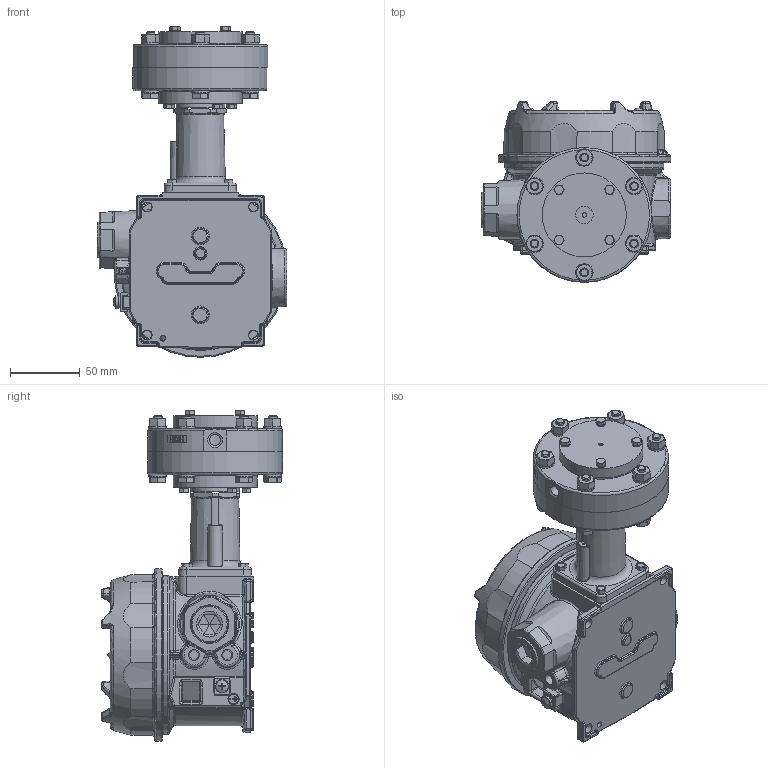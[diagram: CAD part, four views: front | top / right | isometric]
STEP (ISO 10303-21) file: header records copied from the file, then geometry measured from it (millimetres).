
FILE_DESCRIPTION (( 'STEP AP214' ), '1' );
FILE_NAME ('J120K-544_548.STEP', '2025-03-20T11:51:36', ( '' ), ( '' ), 'SwSTEP 2.0', 'SolidWorks 2023', '' );
FILE_SCHEMA (( 'AUTOMOTIVE_DESIGN' ));
Products named in the file (1): J120K-544_548
Bounding box: 135.89 x 129.97 x 237.49 mm (x, y, z)
Surface area: 136170.2 mm2 (no closed solid volume)
Topology: 0 solids, 82 shells, 1436 faces, 3932 edges, 2449 vertices
Faces by surface type: plane 415, cylinder 327, bspline 249, cone 206, torus 197, sphere 42
Full cylindrical faces by diameter (mm): 1.575 x1, 3.175 x1, 3.22 x1, 5.556 x4, 6.325 x6, 7.366 x1, 7.824 x2, 7.874 x1, 9.5 x1, 10.668 x5, 12.7 x7, 23.812 x1, 34.925 x1, 60.325 x4, 87.312 x1, 114.046 x1, 123.952 x1
Entity records: 57691 total; most frequent: CARTESIAN_POINT 25015, ORIENTED_EDGE 6490, DIRECTION 6481, EDGE_CURVE 3750, AXIS2_PLACEMENT_3D 2679, VERTEX_POINT 2417, EDGE_LOOP 1684, FACE_OUTER_BOUND 1500
